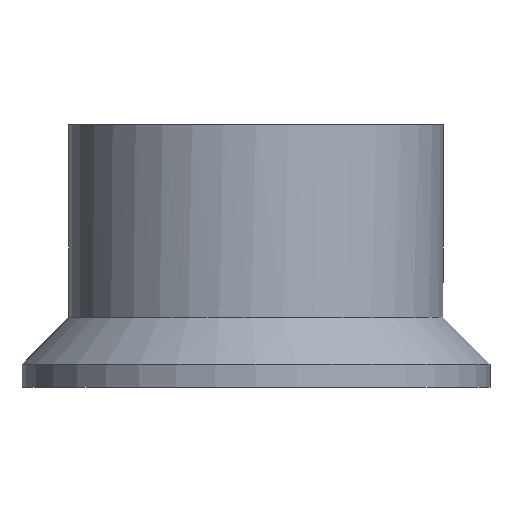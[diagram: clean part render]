
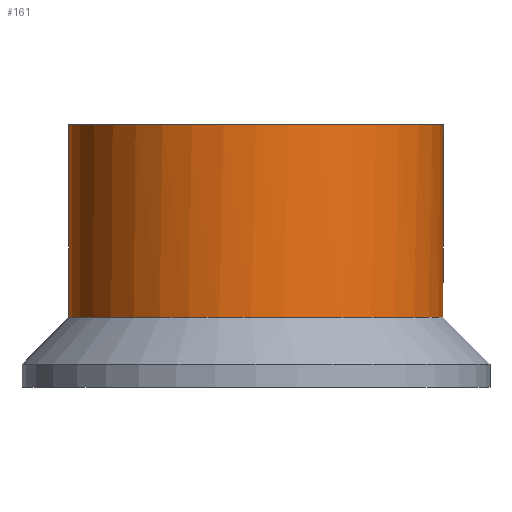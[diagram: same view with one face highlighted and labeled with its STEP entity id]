
A CAD part, front view. The second image highlights one B-rep face of the part: STEP entity #161.
In plain terms, the highlighted cylindrical face has radius 12 mm (diameter 24 mm), a full revolution.
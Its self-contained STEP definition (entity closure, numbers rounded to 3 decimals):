
#23=CYLINDRICAL_SURFACE('',#188,12.);
#29=B_SPLINE_CURVE_WITH_KNOTS('',3,(#277,#278,#279,#280,#281),
 .UNSPECIFIED.,.F.,.F.,(4,1,4),(0.,0.001,0.002),
 .UNSPECIFIED.);
#37=ORIENTED_EDGE('',*,*,#71,.T.);
#38=ORIENTED_EDGE('',*,*,#69,.F.);
#39=ORIENTED_EDGE('',*,*,#72,.T.);
#69=EDGE_CURVE('',#86,#87,#100,.T.);
#71=EDGE_CURVE('',#88,#88,#101,.T.);
#72=EDGE_CURVE('',#86,#87,#29,.T.);
#86=VERTEX_POINT('',#261);
#87=VERTEX_POINT('',#262);
#88=VERTEX_POINT('',#276);
#100=CIRCLE('',#187,12.);
#101=CIRCLE('',#189,12.);
#112=EDGE_LOOP('',(#37));
#113=EDGE_LOOP('',(#38,#39));
#135=FACE_BOUND('',#112,.T.);
#136=FACE_BOUND('',#113,.T.);
#161=ADVANCED_FACE('',(#135,#136),#23,.T.);
#187=AXIS2_PLACEMENT_3D('',#260,#214,#215);
#188=AXIS2_PLACEMENT_3D('',#274,#216,#217);
#189=AXIS2_PLACEMENT_3D('',#275,#218,#219);
#214=DIRECTION('',(0.,0.,-1.));
#215=DIRECTION('',(-1.,0.,0.));
#216=DIRECTION('',(0.,0.,-1.));
#217=DIRECTION('',(-1.,0.,0.));
#218=DIRECTION('',(0.,0.,-1.));
#219=DIRECTION('',(-1.,0.,0.));
#260=CARTESIAN_POINT('',(0.,0.,-12.354));
#261=CARTESIAN_POINT('',(0.918,11.965,-12.354));
#262=CARTESIAN_POINT('',(-0.918,11.965,-12.354));
#274=CARTESIAN_POINT('',(0.,0.,0.));
#275=CARTESIAN_POINT('',(0.,0.,0.));
#276=CARTESIAN_POINT('',(-12.,0.,0.));
#277=CARTESIAN_POINT('',(0.918,11.965,-12.354));
#278=CARTESIAN_POINT('',(0.763,11.977,-11.994));
#279=CARTESIAN_POINT('',(0.,12.023,-11.506));
#280=CARTESIAN_POINT('',(-0.763,11.977,-11.994));
#281=CARTESIAN_POINT('',(-0.918,11.965,-12.354));
